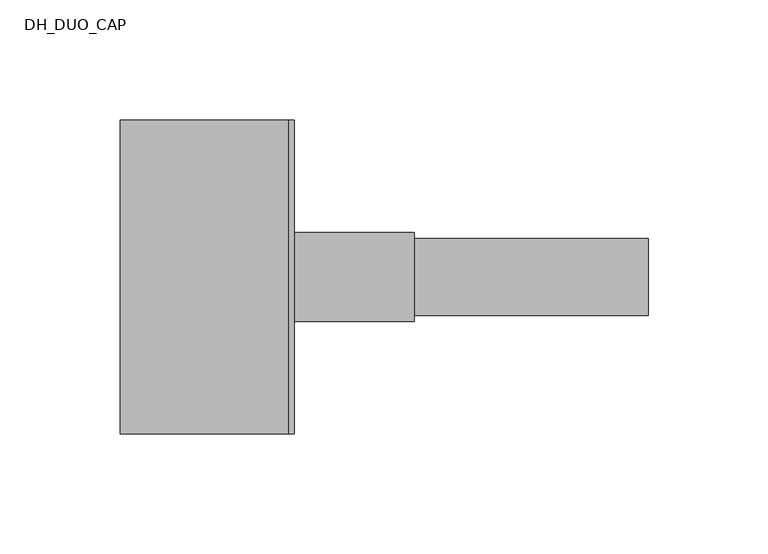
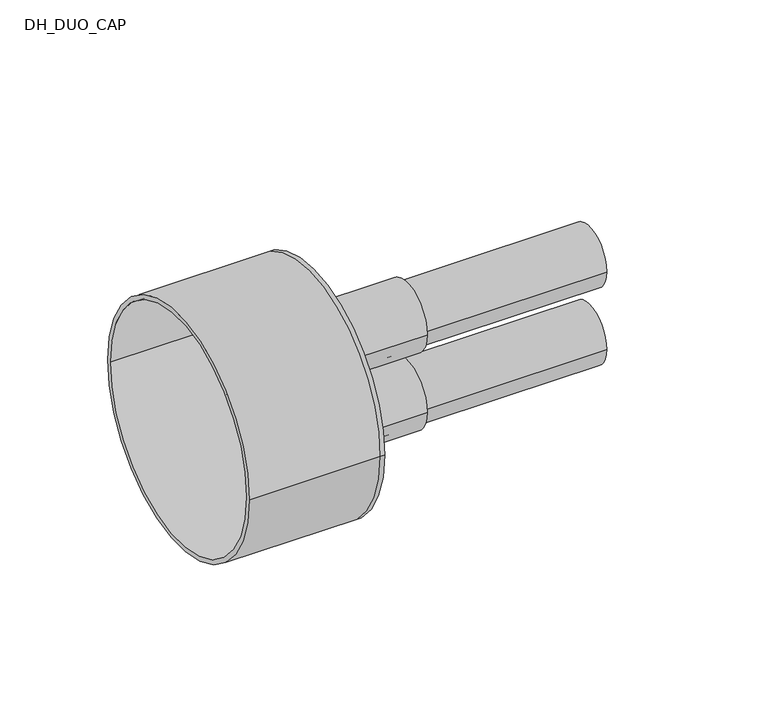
"""IFC4 building model written with IfcOpenShell, lengths in millimetres: pipe fitting geometry, DH_DUO_CAP : RAUTHERMEX DUO + 11 Heating - Rubber Cap."""

from ifc_helpers import new_model, si_unit, point, frame, frame_2d, origin, place, context, project, spatial, polyline, circle_curve, trimmed, segment, composite_curve, outline, extrude, source, transform, mapped, element, save
from ifc_brep_helpers import plane_surface, cylinder_surface, revolved_surface, advanced_brep


def dh_duo_cap_9ab5b0d0(model_context):
    return source(origin(), model_context, "Body", "SolidModel", [
        extrude(outline(composite_curve([segment(trimmed(circle_curve(frame_2d((0.0, -22.0)), 16.0), [point((-16.0, -22.0))], [point((16.0, -22.0))], False, "CARTESIAN"), True, "CONTINUOUS"), segment(trimmed(circle_curve(frame_2d((0.0, -22.0)), 16.0), [point((16.0, -22.0))], [point((-16.0, -22.0))], False, "CARTESIAN"), True, "CONTINUOUS")], self_intersect=False), holes=[composite_curve([segment(trimmed(circle_curve(frame_2d((0.0, -22.0)), 13.1), [point((-13.1, -22.0))], [point((13.1, -22.0))], True, "CARTESIAN"), True, "CONTINUOUS"), segment(trimmed(circle_curve(frame_2d((0.0, -22.0)), 13.1), [point((13.1, -22.0))], [point((-13.1, -22.0))], True, "CARTESIAN"), True, "CONTINUOUS")], self_intersect=False)]), frame((0.0, 0.0, 0.0), z_axis=(1.0, 0.0, 0.0), x_axis=(0.0, 1.0, 0.0)), (0.0, 0.0, 1.0), 150.0),
        extrude(outline(composite_curve([segment(trimmed(circle_curve(frame_2d((0.0, 22.0)), 16.0), [point((-16.0, 22.0))], [point((16.0, 22.0))], False, "CARTESIAN"), True, "CONTINUOUS"), segment(trimmed(circle_curve(frame_2d((0.0, 22.0)), 16.0), [point((16.0, 22.0))], [point((-16.0, 22.0))], False, "CARTESIAN"), True, "CONTINUOUS")], self_intersect=False), holes=[composite_curve([segment(trimmed(circle_curve(frame_2d((0.0, 22.0)), 13.1), [point((-13.1, 22.0))], [point((13.1, 22.0))], True, "CARTESIAN"), True, "CONTINUOUS"), segment(trimmed(circle_curve(frame_2d((0.0, 22.0)), 13.1), [point((13.1, 22.0))], [point((-13.1, 22.0))], True, "CARTESIAN"), True, "CONTINUOUS")], self_intersect=False)]), frame((0.0, 0.0, 0.0), z_axis=(1.0, 0.0, 0.0), x_axis=(0.0, 1.0, 0.0)), (0.0, 0.0, 1.0), 150.0),
        advanced_brep(
        [(-70.0, -65.5, 0.0), (-70.0, 65.5, 0.0), (-70.0, -63.0, 0.0), (-70.0, 63.0, 0.0), (0.0, -63.0, 0.0), (0.0, 63.0, 0.0), (0.0, -65.5, 0.0), (0.0, 65.5, 0.0), (0.0, 16.0, 22.0), (0.0, -16.0, 22.0), (0.0, 16.0, -22.0), (0.0, -16.0, -22.0), (2.5, -65.5, 0.0), (2.5, 65.5, 0.0), (2.5, -16.0, 22.0), (2.5, 16.0, 22.0), (2.5, -16.0, -22.0), (2.5, 16.0, -22.0)],
        [
            (0, 1, circle_curve(frame((-70.0, 0.0, 0.0), z_axis=(-1.0, 0.0, 0.0), x_axis=(0.0, 1.0, 0.0)), 65.5)),
            (1, 0, circle_curve(frame((-70.0, 0.0, 0.0), z_axis=(-1.0, 0.0, 0.0), x_axis=(0.0, 1.0, 0.0)), 65.5)),
            (2, 3, circle_curve(frame((-70.0, 0.0, 0.0), z_axis=(1.0, 0.0, 0.0), x_axis=(0.0, 1.0, 0.0)), 63.0)),
            (3, 2, circle_curve(frame((-70.0, 0.0, 0.0), z_axis=(1.0, 0.0, 0.0), x_axis=(0.0, 1.0, 0.0)), 63.0)),
            (2, 4),
            (4, 5, circle_curve(frame((0.0, 0.0, 0.0), z_axis=(1.0, 0.0, 0.0), x_axis=(0.0, 1.0, 0.0)), 63.0)),
            (5, 3),
            (5, 4, circle_curve(frame((0.0, 0.0, 0.0), z_axis=(1.0, 0.0, 0.0), x_axis=(0.0, 1.0, 0.0)), 63.0)),
            (0, 6),
            (6, 7, circle_curve(frame((0.0, 0.0, 0.0), z_axis=(-1.0, 0.0, 0.0), x_axis=(0.0, 1.0, 0.0)), 65.5)),
            (7, 1),
            (7, 6, circle_curve(frame((0.0, 0.0, 0.0), z_axis=(-1.0, 0.0, 0.0), x_axis=(0.0, 1.0, 0.0)), 65.5)),
            (8, 9, circle_curve(frame((0.0, 0.0, 22.0), z_axis=(1.0, 0.0, 0.0), x_axis=(0.0, 1.0, 0.0)), 16.0)),
            (9, 8, circle_curve(frame((0.0, 0.0, 22.0), z_axis=(1.0, 0.0, 0.0), x_axis=(0.0, 1.0, 0.0)), 16.0)),
            (10, 11, circle_curve(frame((0.0, 0.0, -22.0), z_axis=(1.0, 0.0, 0.0), x_axis=(0.0, 1.0, 0.0)), 16.0)),
            (11, 10, circle_curve(frame((0.0, 0.0, -22.0), z_axis=(1.0, 0.0, 0.0), x_axis=(0.0, 1.0, 0.0)), 16.0)),
            (12, 13, circle_curve(frame((2.5, 0.0, 0.0), z_axis=(1.0, 0.0, 0.0), x_axis=(0.0, 1.0, 0.0)), 65.5)),
            (13, 12, circle_curve(frame((2.5, 0.0, 0.0), z_axis=(1.0, 0.0, 0.0), x_axis=(0.0, 1.0, 0.0)), 65.5)),
            (14, 15, circle_curve(frame((2.5, 0.0, 22.0), z_axis=(-1.0, 0.0, 0.0), x_axis=(0.0, 1.0, 0.0)), 16.0)),
            (15, 14, circle_curve(frame((2.5, 0.0, 22.0), z_axis=(-1.0, 0.0, 0.0), x_axis=(0.0, 1.0, 0.0)), 16.0)),
            (16, 17, circle_curve(frame((2.5, 0.0, -22.0), z_axis=(-1.0, 0.0, 0.0), x_axis=(0.0, 1.0, 0.0)), 16.0)),
            (17, 16, circle_curve(frame((2.5, 0.0, -22.0), z_axis=(-1.0, 0.0, 0.0), x_axis=(0.0, 1.0, 0.0)), 16.0)),
            (13, 7),
            (6, 12),
            (8, 15),
            (14, 9),
            (10, 17),
            (16, 11),
        ],
        [
            plane_surface(frame((-70.0, 0.0, 0.0), z_axis=(-1.0, 0.0, 0.0), x_axis=(0.0, 0.0, 1.0))),
            revolved_surface(polyline([(0.0, 63.0, 0.0), (-70.0, 63.0, 0.0)]), (-70.0, 0.0, 0.0), (1.0, 0.0, 0.0)),
            cylinder_surface(frame((-70.0, 0.0, 0.0), z_axis=(-1.0, 0.0, 0.0), x_axis=(0.0, 1.0, 0.0)), 65.5),
            plane_surface(frame((0.0, 0.0, 0.0), z_axis=(-1.0, 0.0, 0.0), x_axis=(0.0, 0.0, 1.0))),
            plane_surface(frame((2.5, 0.0, 0.0), z_axis=(1.0, 0.0, 0.0), x_axis=(0.0, 0.0, 1.0))),
            cylinder_surface(frame((0.0, 0.0, 0.0), z_axis=(-1.0, 0.0, 0.0), x_axis=(0.0, 1.0, 0.0)), 65.5),
            revolved_surface(polyline([(0.0, 16.0, 22.0), (2.5, 16.0, 22.0)]), (0.0, 0.0, 22.0), (-1.0, 0.0, 0.0)),
            revolved_surface(polyline([(0.0, 16.0, -22.0), (2.5, 16.0, -22.0)]), (0.0, 0.0, -22.0), (-1.0, 0.0, 0.0)),
        ],
        [
            (0, [[1, 2], [3, 4]]),
            (1, [[-3, 5, 6, 7]]),
            (1, [[-4, -7, 8, -5]]),
            (2, [[-1, 9, 10, 11]]),
            (2, [[-2, -11, 12, -9]]),
            (3, [[-6, -8], [13, 14], [15, 16]]),
            (4, [[17, 18], [19, 20], [21, 22]]),
            (5, [[-18, 23, -10, 24]]),
            (5, [[-17, -24, -12, -23]]),
            (6, [[25, -19, 26, -13]]),
            (6, [[-25, -14, -26, -20]]),
            (7, [[27, -21, 28, -15]]),
            (7, [[-27, -16, -28, -22]]),
        ],
    ),
        extrude(outline(composite_curve([segment(trimmed(circle_curve(frame_2d((0.0, -22.0)), 18.5), [point((-18.5, -22.0))], [point((18.5, -22.0))], False, "CARTESIAN"), True, "CONTINUOUS"), segment(trimmed(circle_curve(frame_2d((0.0, -22.0)), 18.5), [point((18.5, -22.0))], [point((-18.5, -22.0))], False, "CARTESIAN"), True, "CONTINUOUS")], self_intersect=False), holes=[composite_curve([segment(trimmed(circle_curve(frame_2d((0.0, -22.0)), 16.0), [point((-16.0, -22.0))], [point((16.0, -22.0))], True, "CARTESIAN"), True, "CONTINUOUS"), segment(trimmed(circle_curve(frame_2d((0.0, -22.0)), 16.0), [point((16.0, -22.0))], [point((-16.0, -22.0))], True, "CARTESIAN"), True, "CONTINUOUS")], self_intersect=False)]), frame((2.5, 0.0, 0.0), z_axis=(1.0, 0.0, 0.0), x_axis=(0.0, 1.0, 0.0)), (0.0, 0.0, 1.0), 50.0),
        extrude(outline(composite_curve([segment(trimmed(circle_curve(frame_2d((0.0, 22.0)), 18.5), [point((-18.5, 22.0))], [point((18.5, 22.0))], False, "CARTESIAN"), True, "CONTINUOUS"), segment(trimmed(circle_curve(frame_2d((0.0, 22.0)), 18.5), [point((18.5, 22.0))], [point((-18.5, 22.0))], False, "CARTESIAN"), True, "CONTINUOUS")], self_intersect=False), holes=[composite_curve([segment(trimmed(circle_curve(frame_2d((0.0, 22.0)), 16.0), [point((-16.0, 22.0))], [point((16.0, 22.0))], True, "CARTESIAN"), True, "CONTINUOUS"), segment(trimmed(circle_curve(frame_2d((0.0, 22.0)), 16.0), [point((16.0, 22.0))], [point((-16.0, 22.0))], True, "CARTESIAN"), True, "CONTINUOUS")], self_intersect=False)]), frame((2.5, 0.0, 0.0), z_axis=(1.0, 0.0, 0.0), x_axis=(0.0, 1.0, 0.0)), (0.0, 0.0, 1.0), 50.0),
    ])


if __name__ == "__main__":
    model = new_model("IFC4")
    model_context = context("Model", 3, world=origin())
    ifc_project = project(units=[si_unit("LENGTHUNIT", "METRE", prefix="MILLI")], contexts=[model_context])
    site = spatial("IfcSite", under=ifc_project)
    building = spatial("IfcBuilding", under=site)
    placement = place(None, origin())
    dh_duo_cap_shape = dh_duo_cap_9ab5b0d0(model_context)
    element("IfcPipeFitting", 1, ObjectType="DH_DUO_CAP : RAUTHERMEX DUO + 11 Heating - Rubber Cap", at=placement, inside=building, context=model_context, shape_type="MappedRepresentation", body=[
        mapped(dh_duo_cap_shape, transform((0.0, 0.0, 0.0), x_axis=(1.0, 0.0, 0.0), y_axis=(0.0, 1.0, 0.0), z_axis=(0.0, 0.0, 1.0))),
    ])
    save(model, "model.ifc")
